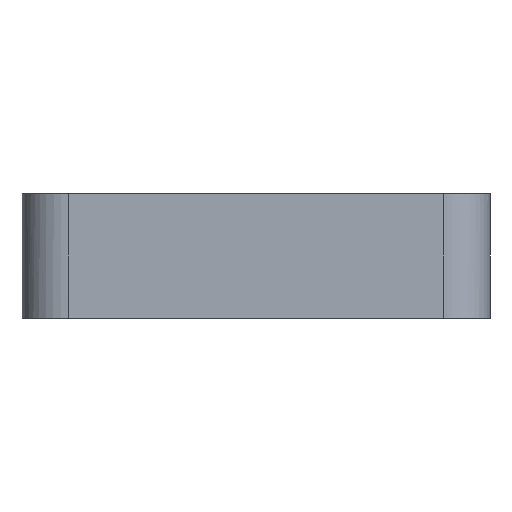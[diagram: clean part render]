
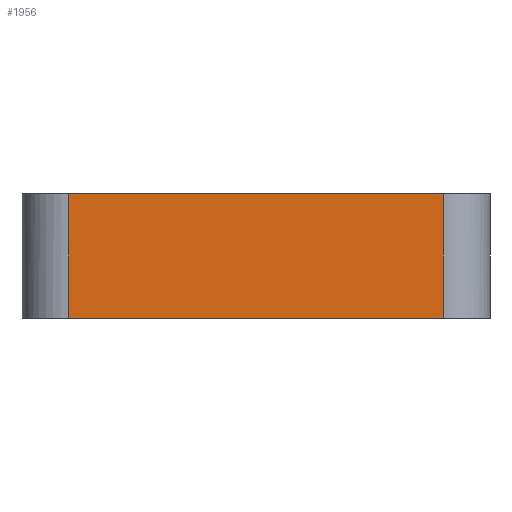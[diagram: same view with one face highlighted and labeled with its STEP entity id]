
A CAD part, front view. The second image highlights one B-rep face of the part: STEP entity #1956.
In plain terms, the highlighted free-form (B-spline) face has degree [1, 1] with [2, 2] control points.
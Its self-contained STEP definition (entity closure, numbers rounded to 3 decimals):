
#414 = B_SPLINE_CURVE_WITH_KNOTS ( 'NONE', 1,
 ( #2731, #3201 ),
 .UNSPECIFIED., .F., .F.,
 ( 2, 2 ),
 ( 0., 1. ),
 .UNSPECIFIED. ) ;
#515 = CARTESIAN_POINT ( 'NONE',  ( -16., -20., 10.6 ) ) ;
#1227 = VERTEX_POINT ( 'NONE', #1682 ) ;
#1407 = EDGE_CURVE ( 'NONE', #2235, #6530, #3204, .T. ) ;
#1464 = FACE_OUTER_BOUND ( 'NONE', #5194, .T. ) ;
#1560 = CARTESIAN_POINT ( 'NONE',  ( -16., -20., 0. ) ) ;
#1682 = CARTESIAN_POINT ( 'NONE',  ( 16., -20., 0. ) ) ;
#1956 = ADVANCED_FACE ( 'NONE', ( #1464 ), #5991, .T. ) ;
#1957 = CARTESIAN_POINT ( 'NONE',  ( 16.855, -20., -11.555 ) ) ;
#2011 = CARTESIAN_POINT ( 'NONE',  ( -16., -20., 0. ) ) ;
#2112 = CARTESIAN_POINT ( 'NONE',  ( 16., -20., 10.6 ) ) ;
#2235 = VERTEX_POINT ( 'NONE', #4299 ) ;
#2479 = CARTESIAN_POINT ( 'NONE',  ( 16., -20., 0. ) ) ;
#2517 = CARTESIAN_POINT ( 'NONE',  ( -16.855, -20., 22.155 ) ) ;
#2595 = CARTESIAN_POINT ( 'NONE',  ( -16., -20., 0. ) ) ;
#2731 = CARTESIAN_POINT ( 'NONE',  ( 16., -20., 10.6 ) ) ;
#2809 = EDGE_CURVE ( 'NONE', #6530, #3787, #3342, .T. ) ;
#2913 = ORIENTED_EDGE ( 'NONE', *, *, #5898, .F. ) ;
#3126 = CARTESIAN_POINT ( 'NONE',  ( -16., -20., 10.6 ) ) ;
#3201 = CARTESIAN_POINT ( 'NONE',  ( 16., -20., 0. ) ) ;
#3204 = B_SPLINE_CURVE_WITH_KNOTS ( 'NONE', 1,
 ( #2112, #3126 ),
 .UNSPECIFIED., .F., .F.,
 ( 2, 2 ),
 ( 0., 1. ),
 .UNSPECIFIED. ) ;
#3342 = B_SPLINE_CURVE_WITH_KNOTS ( 'NONE', 1,
 ( #515, #2595 ),
 .UNSPECIFIED., .F., .F.,
 ( 2, 2 ),
 ( 0., 1. ),
 .UNSPECIFIED. ) ;
#3595 = CARTESIAN_POINT ( 'NONE',  ( 16.855, -20., 22.155 ) ) ;
#3784 = ORIENTED_EDGE ( 'NONE', *, *, #5770, .F. ) ;
#3787 = VERTEX_POINT ( 'NONE', #1560 ) ;
#4299 = CARTESIAN_POINT ( 'NONE',  ( 16., -20., 10.6 ) ) ;
#4309 = CARTESIAN_POINT ( 'NONE',  ( -16., -20., 10.6 ) ) ;
#4363 = ORIENTED_EDGE ( 'NONE', *, *, #1407, .T. ) ;
#4531 = B_SPLINE_CURVE_WITH_KNOTS ( 'NONE', 1,
 ( #2479, #2011 ),
 .UNSPECIFIED., .F., .F.,
 ( 2, 2 ),
 ( 0., 1. ),
 .UNSPECIFIED. ) ;
#5194 = EDGE_LOOP ( 'NONE', ( #5275, #3784, #2913, #4363 ) ) ;
#5275 = ORIENTED_EDGE ( 'NONE', *, *, #2809, .T. ) ;
#5770 = EDGE_CURVE ( 'NONE', #1227, #3787, #4531, .T. ) ;
#5898 = EDGE_CURVE ( 'NONE', #2235, #1227, #414, .T. ) ;
#5991 = B_SPLINE_SURFACE_WITH_KNOTS ( 'NONE', 1, 1, ( 
 ( #1957, #6049 ),
 ( #3595, #2517 ) ),
 .UNSPECIFIED., .F., .F., .F.,
 ( 2, 2 ),
 ( 2, 2 ),
 ( 0., 1. ),
 ( 0., 1. ),
 .UNSPECIFIED. ) ;
#6049 = CARTESIAN_POINT ( 'NONE',  ( -16.855, -20., -11.555 ) ) ;
#6530 = VERTEX_POINT ( 'NONE', #4309 ) ;
